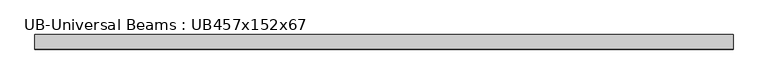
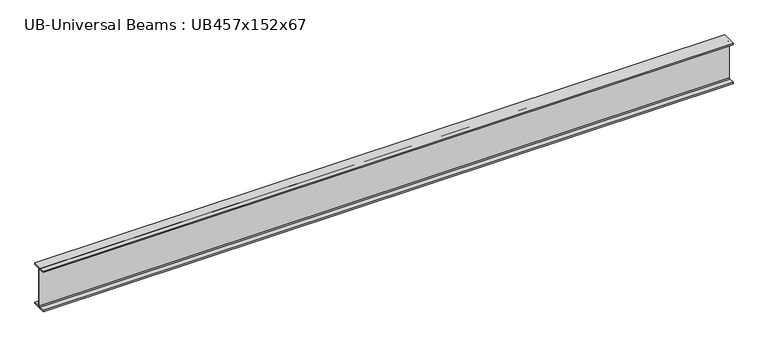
"""IFC4 building model written with IfcOpenShell, lengths in millimetres: beam geometry, UB-Universal Beams : UB457x152x67."""

from ifc_helpers import new_model, si_unit, point, frame, frame_2d, origin, place, context, project, spatial, polyline, circle_curve, trimmed, segment, composite_curve, outline, extrude, source, transform, mapped, element, save


def ub_universal_beams_ub457x152x67_1f1a17ad(model_context):
    return source(origin(), model_context, "Body", "SweptSolid", [
        extrude(outline(composite_curve([segment(polyline([(76.9, -214.0), (76.9, -229.0), (-76.9, -229.0), (-76.9, -214.0), (-14.7, -214.0)]), True, "CONTINUOUS"), segment(trimmed(circle_curve(frame_2d((-14.7, -203.8)), 10.2), [point((-14.7, -214.0))], [point((-4.5, -203.8))], True, "CARTESIAN"), True, "CONTINUOUS"), segment(polyline([(-4.5, -203.8), (-4.5, 203.8)]), True, "CONTINUOUS"), segment(trimmed(circle_curve(frame_2d((-14.7, 203.8)), 10.2), [point((-4.5, 203.8))], [point((-14.7, 214.0))], True, "CARTESIAN"), True, "CONTINUOUS"), segment(polyline([(-14.7, 214.0), (-76.9, 214.0), (-76.9, 229.0), (76.9, 229.0), (76.9, 214.0), (14.7, 214.0)]), True, "CONTINUOUS"), segment(trimmed(circle_curve(frame_2d((14.7, 203.8)), 10.2), [point((14.7, 214.0))], [point((4.5, 203.8))], True, "CARTESIAN"), True, "CONTINUOUS"), segment(polyline([(4.5, 203.8), (4.5, -203.8)]), True, "CONTINUOUS"), segment(trimmed(circle_curve(frame_2d((14.7, -203.8)), 10.2), [point((4.5, -203.8))], [point((14.7, -214.0))], True, "CARTESIAN"), True, "CONTINUOUS"), segment(polyline([(14.7, -214.0), (76.9, -214.0)]), True, "CONTINUOUS")], self_intersect=False)), frame((-3679.8, 0.0, 0.0), z_axis=(1.0, 0.0, 0.0), x_axis=(0.0, 1.0, 0.0)), (0.0, 0.0, 1.0), 7359.6),
    ])


if __name__ == "__main__":
    model = new_model("IFC4")
    model_context = context("Model", 3, world=origin())
    ifc_project = project(units=[si_unit("LENGTHUNIT", "METRE", prefix="MILLI")], contexts=[model_context])
    site = spatial("IfcSite", under=ifc_project)
    building = spatial("IfcBuilding", under=site)
    placement = place(None, origin())
    ub_universal_beams_ub457x152x67_shape = ub_universal_beams_ub457x152x67_1f1a17ad(model_context)
    element("IfcBeam", 1, ObjectType="UB-Universal Beams : UB457x152x67", at=placement, inside=building, context=model_context, shape_type="MappedRepresentation", body=[
        mapped(ub_universal_beams_ub457x152x67_shape, transform((0.0, 0.0, 0.0), x_axis=(1.0, 0.0, 0.0), y_axis=(0.0, 1.0, 0.0), z_axis=(0.0, 0.0, 1.0))),
    ])
    save(model, "model.ifc")
